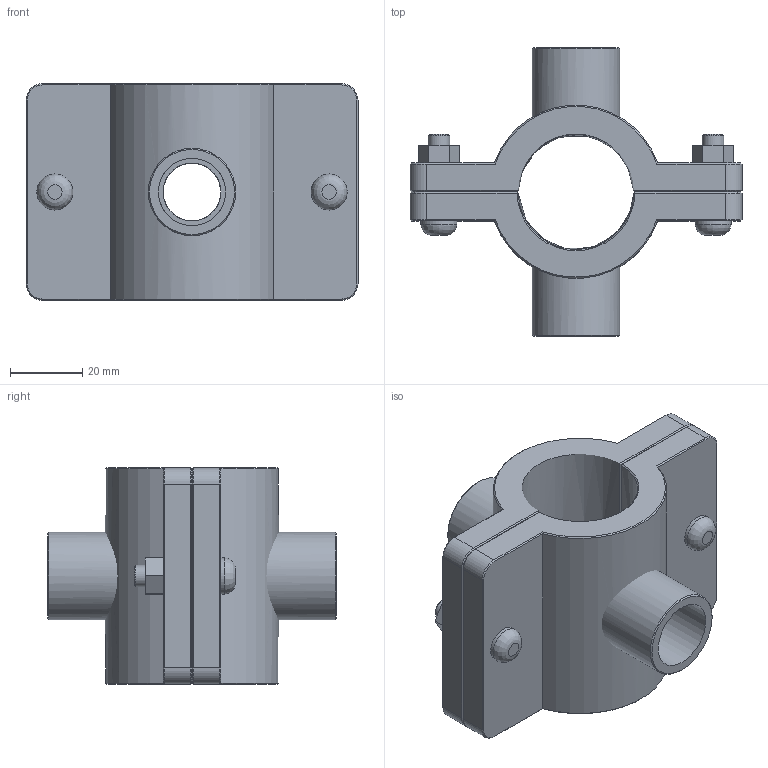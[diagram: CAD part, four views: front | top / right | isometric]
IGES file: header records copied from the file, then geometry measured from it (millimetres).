
Global section: file name: 161760032005_161860032005.ipt; native system: Autodesk Inventor 2015; preprocessor: unknown; author: KIM; date: 20170618.093641; units: millimetre
Bounding box: 92 x 80 x 60 mm (x, y, z)
Volume: 110888.7 mm3; surface area: 38662.1 mm2
Topology: 3 solids, 3 shells, 127 faces, 290 edges, 181 vertices
Faces by surface type: plane 68, cone 24, cylinder 18, revolution 17
Full cylindrical faces by diameter (mm): 6 x2, 10 x4, 24.22 x2
